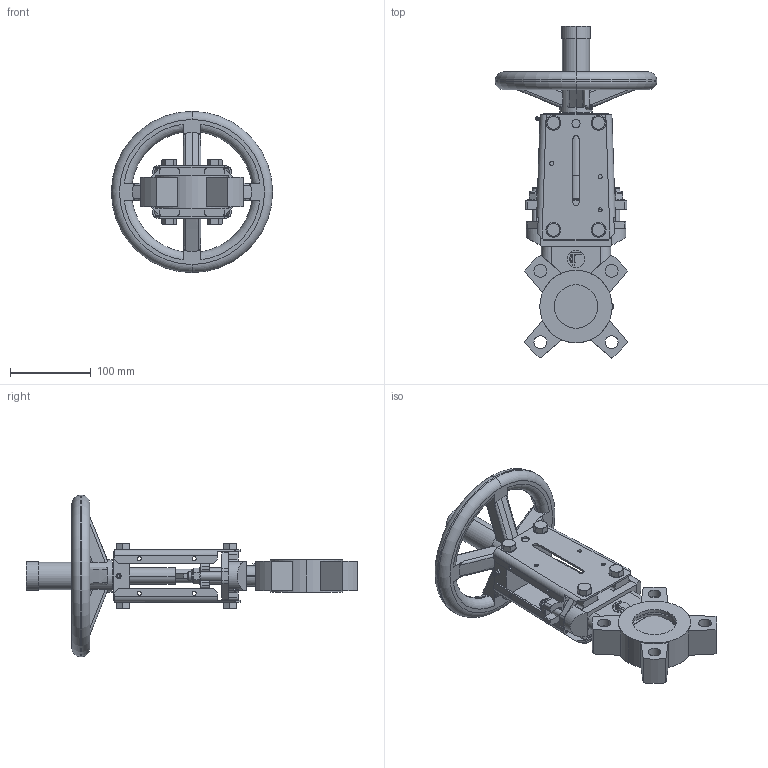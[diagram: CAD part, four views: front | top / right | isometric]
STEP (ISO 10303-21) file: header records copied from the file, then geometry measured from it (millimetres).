
FILE_DESCRIPTION (( 'STEP AP203' ), '1' );
FILE_NAME ('VG DN50.STEP', '2010-01-29T01:31:17', ( 'farex' ), ( '' ), 'SwSTEP 2.0', 'SolidWorks 2009', '' );
FILE_SCHEMA (( 'CONFIG_CONTROL_DESIGN' ));
Length unit declared in the file: millimetre
Products named in the file (1): VG DN50
Bounding box: 200 x 411.8 x 200 mm (x, y, z)
Volume: 1236338 mm3; surface area: 282981.8 mm2
Topology: 3 solids, 14 shells, 857 faces, 2242 edges, 1462 vertices
Faces by surface type: plane 425, cylinder 202, cone 104, bspline 102, torus 24
Entity records: 36843 total; most frequent: CARTESIAN_POINT 16350, ORIENTED_EDGE 4484, DIRECTION 3839, EDGE_CURVE 2242, VERTEX_POINT 1462, AXIS2_PLACEMENT_3D 1314, VECTOR 1211, LINE 1211
